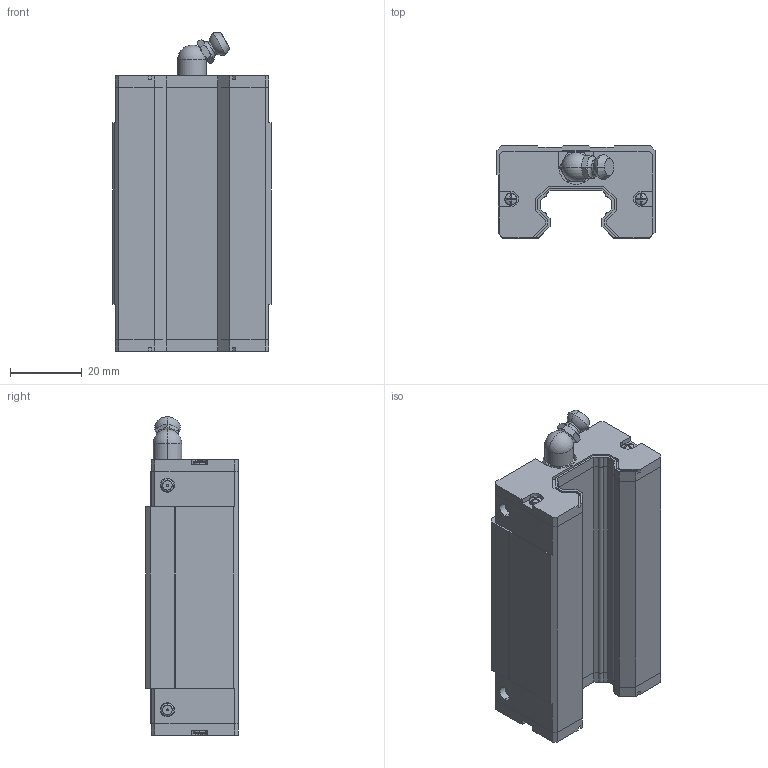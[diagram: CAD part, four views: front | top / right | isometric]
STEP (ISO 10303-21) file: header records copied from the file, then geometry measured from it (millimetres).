
FILE_DESCRIPTION (( 'STEP AP203' ), '1' );
FILE_NAME ('HGH20CA.STEP', '2021-10-22T07:51:18', ( '微软用户' ), ( '微软中国' ), 'SwSTEP 2.0', 'SolidWorks 2012', '' );
FILE_SCHEMA (( 'CONFIG_CONTROL_DESIGN' ));
Length unit declared in the file: millimetre
Products named in the file (1): HGH20CA
Bounding box: 44 x 25.7 x 88.7 mm (x, y, z)
Volume: 65247.5 mm3; surface area: 18818.3 mm2
Topology: 3 solids, 3 shells, 389 faces, 1030 edges, 669 vertices
Faces by surface type: plane 258, cylinder 74, cone 31, torus 20, sphere 6
Entity records: 12514 total; most frequent: CARTESIAN_POINT 2683, ORIENTED_EDGE 2036, DIRECTION 2023, EDGE_CURVE 1018, VECTOR 705, LINE 705, VERTEX_POINT 667, AXIS2_PLACEMENT_3D 659
